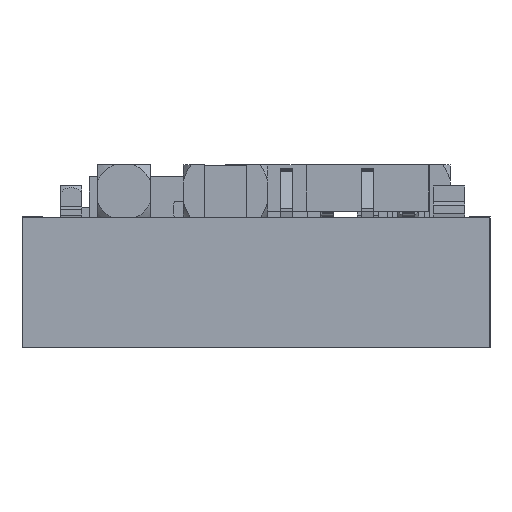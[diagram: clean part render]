
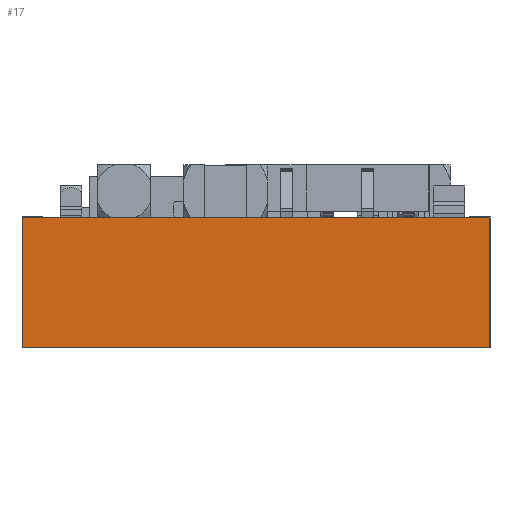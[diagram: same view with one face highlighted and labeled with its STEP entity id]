
A CAD part, left-side view. The second image highlights one B-rep face of the part: STEP entity #17.
In plain terms, the highlighted planar face has unit normal (-1, 0, 0).
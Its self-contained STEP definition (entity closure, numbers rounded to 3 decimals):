
#17 = ADVANCED_FACE('',(#18),#32,.F.);
#18 = FACE_BOUND('',#19,.F.);
#19 = EDGE_LOOP('',(#20,#55,#83,#111));
#20 = ORIENTED_EDGE('',*,*,#21,.F.);
#21 = EDGE_CURVE('',#22,#24,#26,.T.);
#22 = VERTEX_POINT('',#23);
#23 = CARTESIAN_POINT('',(-7.75,-5.75,0.));
#24 = VERTEX_POINT('',#25);
#25 = CARTESIAN_POINT('',(-7.75,-5.75,3.2));
#26 = SURFACE_CURVE('',#27,(#31,#43),.PCURVE_S1.);
#27 = LINE('',#28,#29);
#28 = CARTESIAN_POINT('',(-7.75,-5.75,0.));
#29 = VECTOR('',#30,1.);
#30 = DIRECTION('',(0.,0.,1.));
#31 = PCURVE('',#32,#37);
#32 = PLANE('',#33);
#33 = AXIS2_PLACEMENT_3D('',#34,#35,#36);
#34 = CARTESIAN_POINT('',(-7.75,-5.75,0.));
#35 = DIRECTION('',(1.,0.,0.));
#36 = DIRECTION('',(0.,0.,1.));
#37 = DEFINITIONAL_REPRESENTATION('',(#38),#42);
#38 = LINE('',#39,#40);
#39 = CARTESIAN_POINT('',(0.,0.));
#40 = VECTOR('',#41,1.);
#41 = DIRECTION('',(1.,0.));
#42 = ( GEOMETRIC_REPRESENTATION_CONTEXT(2) 
PARAMETRIC_REPRESENTATION_CONTEXT() REPRESENTATION_CONTEXT('2D SPACE',''
  ) );
#43 = PCURVE('',#44,#49);
#44 = PLANE('',#45);
#45 = AXIS2_PLACEMENT_3D('',#46,#47,#48);
#46 = CARTESIAN_POINT('',(-7.75,-5.75,0.));
#47 = DIRECTION('',(0.,1.,0.));
#48 = DIRECTION('',(0.,0.,1.));
#49 = DEFINITIONAL_REPRESENTATION('',(#50),#54);
#50 = LINE('',#51,#52);
#51 = CARTESIAN_POINT('',(0.,0.));
#52 = VECTOR('',#53,1.);
#53 = DIRECTION('',(1.,0.));
#54 = ( GEOMETRIC_REPRESENTATION_CONTEXT(2) 
PARAMETRIC_REPRESENTATION_CONTEXT() REPRESENTATION_CONTEXT('2D SPACE',''
  ) );
#55 = ORIENTED_EDGE('',*,*,#56,.T.);
#56 = EDGE_CURVE('',#22,#57,#59,.T.);
#57 = VERTEX_POINT('',#58);
#58 = CARTESIAN_POINT('',(-7.75,5.75,0.));
#59 = SURFACE_CURVE('',#60,(#64,#71),.PCURVE_S1.);
#60 = LINE('',#61,#62);
#61 = CARTESIAN_POINT('',(-7.75,-5.75,0.));
#62 = VECTOR('',#63,1.);
#63 = DIRECTION('',(0.,1.,0.));
#64 = PCURVE('',#32,#65);
#65 = DEFINITIONAL_REPRESENTATION('',(#66),#70);
#66 = LINE('',#67,#68);
#67 = CARTESIAN_POINT('',(0.,0.));
#68 = VECTOR('',#69,1.);
#69 = DIRECTION('',(0.,-1.));
#70 = ( GEOMETRIC_REPRESENTATION_CONTEXT(2) 
PARAMETRIC_REPRESENTATION_CONTEXT() REPRESENTATION_CONTEXT('2D SPACE',''
  ) );
#71 = PCURVE('',#72,#77);
#72 = PLANE('',#73);
#73 = AXIS2_PLACEMENT_3D('',#74,#75,#76);
#74 = CARTESIAN_POINT('',(-7.75,-5.75,0.));
#75 = DIRECTION('',(0.,0.,1.));
#76 = DIRECTION('',(1.,0.,0.));
#77 = DEFINITIONAL_REPRESENTATION('',(#78),#82);
#78 = LINE('',#79,#80);
#79 = CARTESIAN_POINT('',(0.,0.));
#80 = VECTOR('',#81,1.);
#81 = DIRECTION('',(0.,1.));
#82 = ( GEOMETRIC_REPRESENTATION_CONTEXT(2) 
PARAMETRIC_REPRESENTATION_CONTEXT() REPRESENTATION_CONTEXT('2D SPACE',''
  ) );
#83 = ORIENTED_EDGE('',*,*,#84,.T.);
#84 = EDGE_CURVE('',#57,#85,#87,.T.);
#85 = VERTEX_POINT('',#86);
#86 = CARTESIAN_POINT('',(-7.75,5.75,3.2));
#87 = SURFACE_CURVE('',#88,(#92,#99),.PCURVE_S1.);
#88 = LINE('',#89,#90);
#89 = CARTESIAN_POINT('',(-7.75,5.75,0.));
#90 = VECTOR('',#91,1.);
#91 = DIRECTION('',(0.,0.,1.));
#92 = PCURVE('',#32,#93);
#93 = DEFINITIONAL_REPRESENTATION('',(#94),#98);
#94 = LINE('',#95,#96);
#95 = CARTESIAN_POINT('',(0.,-11.5));
#96 = VECTOR('',#97,1.);
#97 = DIRECTION('',(1.,0.));
#98 = ( GEOMETRIC_REPRESENTATION_CONTEXT(2) 
PARAMETRIC_REPRESENTATION_CONTEXT() REPRESENTATION_CONTEXT('2D SPACE',''
  ) );
#99 = PCURVE('',#100,#105);
#100 = PLANE('',#101);
#101 = AXIS2_PLACEMENT_3D('',#102,#103,#104);
#102 = CARTESIAN_POINT('',(-7.75,5.75,0.));
#103 = DIRECTION('',(0.,1.,0.));
#104 = DIRECTION('',(0.,0.,1.));
#105 = DEFINITIONAL_REPRESENTATION('',(#106),#110);
#106 = LINE('',#107,#108);
#107 = CARTESIAN_POINT('',(0.,0.));
#108 = VECTOR('',#109,1.);
#109 = DIRECTION('',(1.,0.));
#110 = ( GEOMETRIC_REPRESENTATION_CONTEXT(2) 
PARAMETRIC_REPRESENTATION_CONTEXT() REPRESENTATION_CONTEXT('2D SPACE',''
  ) );
#111 = ORIENTED_EDGE('',*,*,#112,.F.);
#112 = EDGE_CURVE('',#24,#85,#113,.T.);
#113 = SURFACE_CURVE('',#114,(#118,#125),.PCURVE_S1.);
#114 = LINE('',#115,#116);
#115 = CARTESIAN_POINT('',(-7.75,-5.75,3.2));
#116 = VECTOR('',#117,1.);
#117 = DIRECTION('',(0.,1.,0.));
#118 = PCURVE('',#32,#119);
#119 = DEFINITIONAL_REPRESENTATION('',(#120),#124);
#120 = LINE('',#121,#122);
#121 = CARTESIAN_POINT('',(3.2,0.));
#122 = VECTOR('',#123,1.);
#123 = DIRECTION('',(0.,-1.));
#124 = ( GEOMETRIC_REPRESENTATION_CONTEXT(2) 
PARAMETRIC_REPRESENTATION_CONTEXT() REPRESENTATION_CONTEXT('2D SPACE',''
  ) );
#125 = PCURVE('',#126,#131);
#126 = PLANE('',#127);
#127 = AXIS2_PLACEMENT_3D('',#128,#129,#130);
#128 = CARTESIAN_POINT('',(-7.75,-5.75,3.2));
#129 = DIRECTION('',(0.,0.,1.));
#130 = DIRECTION('',(1.,0.,0.));
#131 = DEFINITIONAL_REPRESENTATION('',(#132),#136);
#132 = LINE('',#133,#134);
#133 = CARTESIAN_POINT('',(0.,0.));
#134 = VECTOR('',#135,1.);
#135 = DIRECTION('',(0.,1.));
#136 = ( GEOMETRIC_REPRESENTATION_CONTEXT(2) 
PARAMETRIC_REPRESENTATION_CONTEXT() REPRESENTATION_CONTEXT('2D SPACE',''
  ) );
